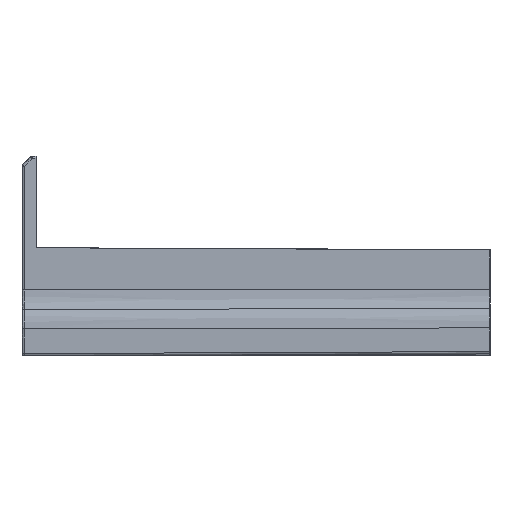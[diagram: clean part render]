
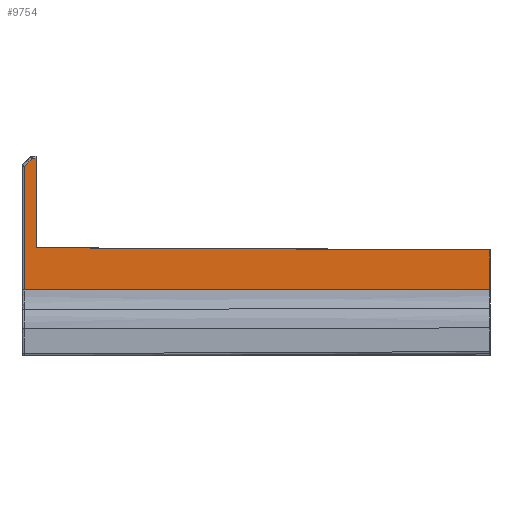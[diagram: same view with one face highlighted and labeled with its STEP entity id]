
A CAD part, left-side view. The second image highlights one B-rep face of the part: STEP entity #9754.
In plain terms, the highlighted planar face has unit normal (-1, 0.004, 0).
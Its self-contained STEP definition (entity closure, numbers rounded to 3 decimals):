
#192 = EDGE_CURVE ( 'NONE', #5366, #12619, #19283, .T. ) ;
#275 = ORIENTED_EDGE ( 'NONE', *, *, #5345, .T. ) ;
#588 = EDGE_CURVE ( 'NONE', #3996, #5366, #6107, .T. ) ;
#1215 = DIRECTION ( 'NONE',  ( -0.004, -1., 0. ) ) ;
#1581 = EDGE_CURVE ( 'NONE', #7358, #14206, #15590, .T. ) ;
#1658 = CARTESIAN_POINT ( 'NONE',  ( -122.502, 75.502, 31.093 ) ) ;
#2825 = CARTESIAN_POINT ( 'NONE',  ( -122.702, 29.667, 5.034 ) ) ;
#3701 = DIRECTION ( 'NONE',  ( 0., 0., -1. ) ) ;
#3953 = VERTEX_POINT ( 'NONE', #13387 ) ;
#3996 = VERTEX_POINT ( 'NONE', #1658 ) ;
#4159 = EDGE_CURVE ( 'NONE', #3953, #3996, #6167, .T. ) ;
#4782 = PLANE ( 'NONE',  #7561 ) ;
#5248 = VECTOR ( 'NONE', #17460, 1000. ) ;
#5249 = EDGE_CURVE ( 'NONE', #14206, #17997, #5569, .T. ) ;
#5345 = EDGE_CURVE ( 'NONE', #7358, #3953, #16495, .T. ) ;
#5366 = VERTEX_POINT ( 'NONE', #13250 ) ;
#5443 = ORIENTED_EDGE ( 'NONE', *, *, #588, .T. ) ;
#5446 = CARTESIAN_POINT ( 'NONE',  ( -122.513, 73., 9. ) ) ;
#5569 = B_SPLINE_CURVE_WITH_KNOTS ( 'NONE', 3,
 ( #6585, #12272, #9119, #19372 ),
 .UNSPECIFIED., .F., .F.,
 ( 4, 4 ),
 ( 0.406, 0.502 ),
 .UNSPECIFIED. ) ;
#6107 = LINE ( 'NONE', #7055, #17345 ) ;
#6167 = LINE ( 'NONE', #9332, #10513 ) ;
#6585 = CARTESIAN_POINT ( 'NONE',  ( -122.513, 73., 13.898 ) ) ;
#7006 = DIRECTION ( 'NONE',  ( 0., 0., -1. ) ) ;
#7055 = CARTESIAN_POINT ( 'NONE',  ( -122.502, 75.502, 4.958 ) ) ;
#7101 = EDGE_CURVE ( 'NONE', #17997, #12619, #19659, .T. ) ;
#7358 = VERTEX_POINT ( 'NONE', #11350 ) ;
#7561 = AXIS2_PLACEMENT_3D ( 'NONE', #9831, #14607, #1215 ) ;
#8383 = ORIENTED_EDGE ( 'NONE', *, *, #5249, .F. ) ;
#8608 = ORIENTED_EDGE ( 'NONE', *, *, #192, .T. ) ;
#9119 = CARTESIAN_POINT ( 'NONE',  ( -122.792, 9., 13.605 ) ) ;
#9190 = CARTESIAN_POINT ( 'NONE',  ( -122.817, 3.333, 5.076 ) ) ;
#9332 = CARTESIAN_POINT ( 'NONE',  ( -122.502, 75.648, 30.948 ) ) ;
#9754 = ADVANCED_FACE ( 'NONE', ( #19446 ), #4782, .T. ) ;
#9831 = CARTESIAN_POINT ( 'NONE',  ( -122.5, 76., -9. ) ) ;
#10017 = ORIENTED_EDGE ( 'NONE', *, *, #7101, .F. ) ;
#10248 = CARTESIAN_POINT ( 'NONE',  ( -122.932, -23., 13.431 ) ) ;
#10513 = VECTOR ( 'NONE', #17012, 1000. ) ;
#11136 = EDGE_LOOP ( 'NONE', ( #12091, #5443, #8608, #10017, #8383, #14337, #275 ) ) ;
#11177 = DIRECTION ( 'NONE',  ( 0., 0., -1. ) ) ;
#11306 = CARTESIAN_POINT ( 'NONE',  ( -122.932, -23., 9. ) ) ;
#11350 = CARTESIAN_POINT ( 'NONE',  ( -122.513, 73., 32.8 ) ) ;
#11402 = CARTESIAN_POINT ( 'NONE',  ( -122.531, 69.002, 4.97 ) ) ;
#12027 = CARTESIAN_POINT ( 'NONE',  ( -122.932, -23., 5.118 ) ) ;
#12091 = ORIENTED_EDGE ( 'NONE', *, *, #4159, .T. ) ;
#12272 = CARTESIAN_POINT ( 'NONE',  ( -122.653, 41., 13.757 ) ) ;
#12619 = VERTEX_POINT ( 'NONE', #12027 ) ;
#13157 = VECTOR ( 'NONE', #3701, 1000. ) ;
#13169 = VECTOR ( 'NONE', #7006, 1000. ) ;
#13250 = CARTESIAN_POINT ( 'NONE',  ( -122.502, 75.502, 4.959 ) ) ;
#13387 = CARTESIAN_POINT ( 'NONE',  ( -122.509, 73.824, 32.771 ) ) ;
#14206 = VERTEX_POINT ( 'NONE', #18323 ) ;
#14337 = ORIENTED_EDGE ( 'NONE', *, *, #1581, .F. ) ;
#14607 = DIRECTION ( 'NONE',  ( -1., 0.004, 0. ) ) ;
#15590 = LINE ( 'NONE', #5446, #13169 ) ;
#16495 = LINE ( 'NONE', #19397, #5248 ) ;
#16875 = CARTESIAN_POINT ( 'NONE',  ( -122.932, -23., 5.118 ) ) ;
#17012 = DIRECTION ( 'NONE',  ( 0.003, 0.707, -0.707 ) ) ;
#17345 = VECTOR ( 'NONE', #11177, 1000. ) ;
#17460 = DIRECTION ( 'NONE',  ( 0.004, 0.999, -0.035 ) ) ;
#17504 = CARTESIAN_POINT ( 'NONE',  ( -122.502, 75.502, 4.959 ) ) ;
#17847 = CARTESIAN_POINT ( 'NONE',  ( -122.559, 62.501, 4.981 ) ) ;
#17997 = VERTEX_POINT ( 'NONE', #10248 ) ;
#18153 = CARTESIAN_POINT ( 'NONE',  ( -122.587, 56., 4.991 ) ) ;
#18323 = CARTESIAN_POINT ( 'NONE',  ( -122.513, 73., 13.898 ) ) ;
#19283 = B_SPLINE_CURVE_WITH_KNOTS ( 'NONE', 3,
 ( #17504, #11402, #17847, #18153, #2825, #9190, #16875 ),
 .UNSPECIFIED., .F., .F.,
 ( 4, 3, 4 ),
 ( 0., 0.02, 0.099 ),
 .UNSPECIFIED. ) ;
#19372 = CARTESIAN_POINT ( 'NONE',  ( -122.932, -23., 13.431 ) ) ;
#19397 = CARTESIAN_POINT ( 'NONE',  ( -122.509, 74.019, 32.764 ) ) ;
#19446 = FACE_OUTER_BOUND ( 'NONE', #11136, .T. ) ;
#19659 = LINE ( 'NONE', #11306, #13157 ) ;
